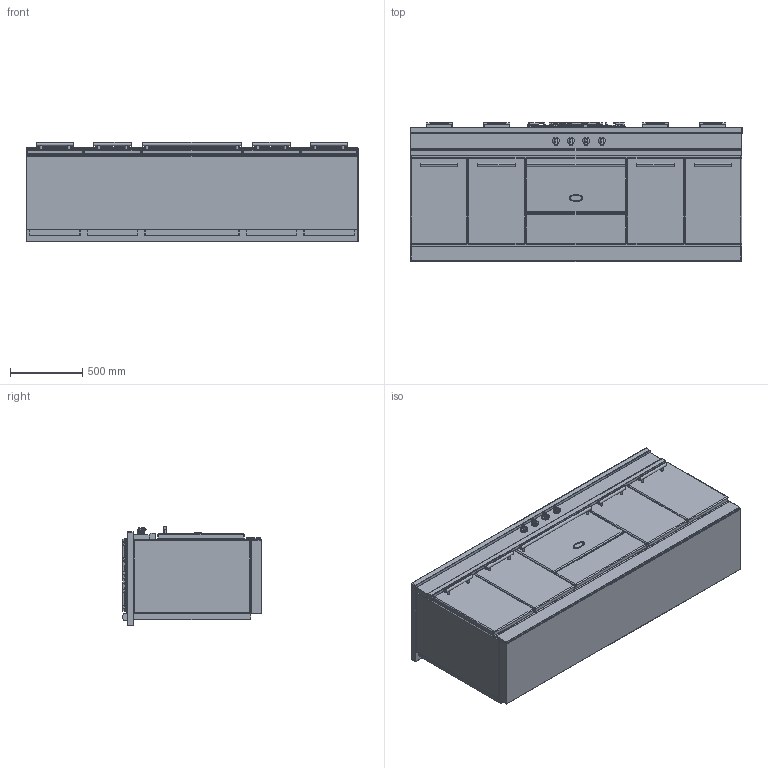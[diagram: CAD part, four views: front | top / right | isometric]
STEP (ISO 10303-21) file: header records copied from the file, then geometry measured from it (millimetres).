
FILE_DESCRIPTION((''),'2;1');
FILE_NAME('LMG2331_ASM','2022-04-13T13:15:13',('stagiaire'),(''),'CREO PARAMETRIC BY PTC INC, 2021424','CREO PARAMETRIC BY PTC INC, 2021424','');
FILE_SCHEMA(('AP203_CONFIGURATION_CONTROLLED_3D_DESIGN_OF_MECHANICAL_PARTS_AND_ASSEMBLIES_MIM_LF { 1 0 10303 403 2 1 2 }'));
Products named in the file (20): BASE_EXPORT_FONTENAY_LMG2331; 65049009; 65650001; 65064012; 19150009; 88064012_ASM; BASE_EXPORT_FONTENAY_LMG2331_ASM; TABLE_2300_CLASSIQUE_3_FEUX; 5KW; 1_5KW; 3KW; 6537025; 65149005; 90000488_ASM; 6537023; 90000565_ASM; CHEMINEE_2020_LG371_EXPORT_STEP; CHEMINEE_2020_LG182_EXPORT_STEP; TABLE_2300_CLASSIQUE_3_FEUX_ASM; LMG2331_ASM
Assembly tree (33 placements, depth 4):
  LMG2331_ASM
    BASE_EXPORT_FONTENAY_LMG2331_ASM
      BASE_EXPORT_FONTENAY_LMG2331
      65049009
      65650001
      88064012_ASM  x4
        65064012
        19150009
    TABLE_2300_CLASSIQUE_3_FEUX_ASM
      TABLE_2300_CLASSIQUE_3_FEUX
      5KW
      1_5KW
      3KW
      90000488_ASM  x2
        6537025
        65149005
      90000565_ASM
        6537023
        65149005  x4
      CHEMINEE_2020_LG371_EXPORT_STEP
      CHEMINEE_2020_LG182_EXPORT_STEP  x4
Bounding box: 2305 x 965 x 688.5 mm (x, y, z)
Volume: 1242253883.3 mm3; surface area: 17045486 mm2
Topology: 39 solids, 39 shells, 4976 faces, 13872 edges, 8884 vertices
Faces by surface type: cylinder 1813, plane 1611, bspline 922, sphere 250, cone 212, torus 146, extrusion 22
Entity records: 143221 total; most frequent: CARTESIAN_POINT 48560, ORIENTED_EDGE 15496, DIRECTION 14372, EDGE_CURVE 7748, AXIS2_PLACEMENT_3D 4863, VERTEX_POINT 4698, VECTOR 4591, LINE 4569
